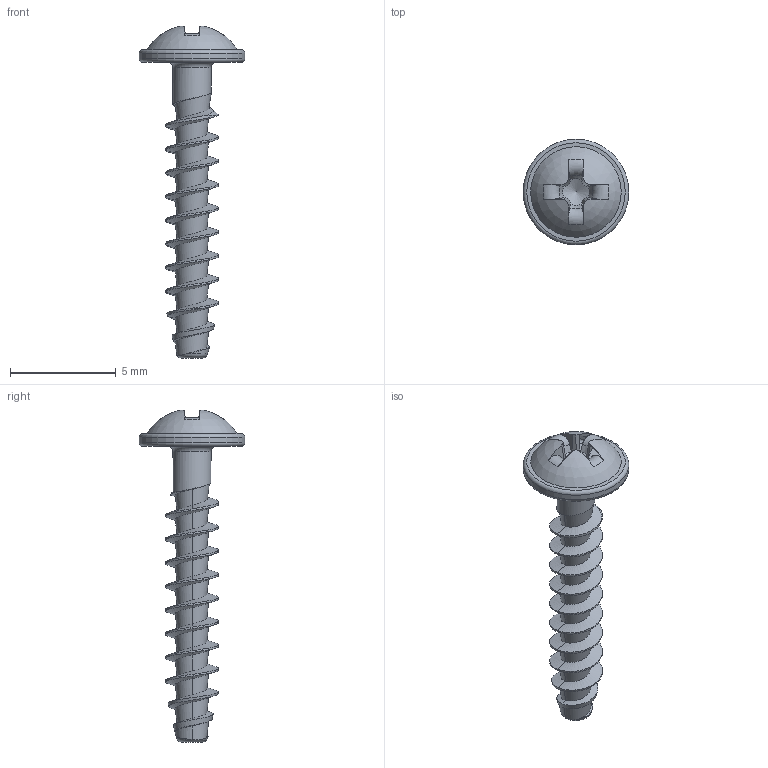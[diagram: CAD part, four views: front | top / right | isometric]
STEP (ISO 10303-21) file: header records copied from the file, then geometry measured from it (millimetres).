
FILE_DESCRIPTION(/* description */ (''),/* implementation_level */ '2;1');
FILE_NAME(/* name */ 'KN1031-Neu-STS-25x14-H1.step',/* time_stamp */ '2017-10-12T13:05:46+02:00',/* author */ (''),/* organization */ (''),/* preprocessor_version */ 'ST-DEVELOPER v16',/* originating_system */ 'SIEMENS PLM Software NX 10.0',/* authorisation */ '');
FILE_SCHEMA (('AUTOMOTIVE_DESIGN { 1 0 10303 214 3 1 1 1 }'));
Length unit declared in the file: millimetre
Products named in the file (1): KN1031-Neu-STS-25x14-H1
Bounding box: 5 x 5 x 15.72 mm (x, y, z)
Volume: 51.4 mm3; surface area: 173.4 mm2
Topology: 1 solids, 1 shells, 74 faces, 189 edges, 118 vertices
Faces by surface type: bspline 35, plane 19, torus 8, cone 7, cylinder 4, sphere 1
Full cylindrical faces by diameter (mm): 1.8 x1, 5 x1
Entity records: 4428 total; most frequent: CARTESIAN_POINT 2959, ORIENTED_EDGE 346, DIRECTION 202, EDGE_CURVE 173, VERTEX_POINT 112, B_SPLINE_CURVE_WITH_KNOTS 89, EDGE_LOOP 82, AXIS2_PLACEMENT_3D 79
